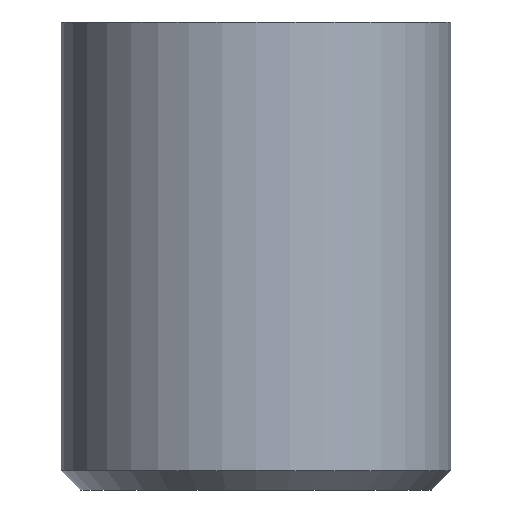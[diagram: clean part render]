
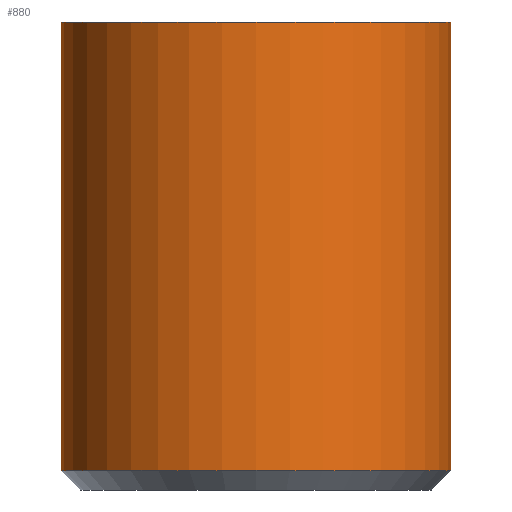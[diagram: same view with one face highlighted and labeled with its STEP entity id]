
A CAD part, front view. The second image highlights one B-rep face of the part: STEP entity #880.
In plain terms, the highlighted cylindrical face has radius 5 mm (diameter 10 mm), a partial arc.
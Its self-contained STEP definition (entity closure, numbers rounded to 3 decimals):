
#13 = AXIS2_PLACEMENT_3D ( 'NONE', #1266, #281, #1412 ) ;
#32 = EDGE_CURVE ( 'NONE', #1780, #1040, #567, .T. ) ;
#74 = AXIS2_PLACEMENT_3D ( 'NONE', #2021, #1132, #1115 ) ;
#84 = EDGE_CURVE ( 'NONE', #1040, #1016, #520, .T. ) ;
#220 = DIRECTION ( 'NONE',  ( 0., 0., 1. ) ) ;
#233 = CARTESIAN_POINT ( 'NONE',  ( 5., 0., 0. ) ) ;
#281 = DIRECTION ( 'NONE',  ( 0., 0., 1. ) ) ;
#342 = DIRECTION ( 'NONE',  ( 0., 0., 1. ) ) ;
#368 = CARTESIAN_POINT ( 'NONE',  ( 5., 0., 0. ) ) ;
#369 = EDGE_CURVE ( 'NONE', #1295, #1016, #1122, .T. ) ;
#493 = VECTOR ( 'NONE', #1438, 1000. ) ;
#511 = CARTESIAN_POINT ( 'NONE',  ( 0., 0., 0. ) ) ;
#520 = CIRCLE ( 'NONE', #74, 5. ) ;
#567 = LINE ( 'NONE', #1860, #493 ) ;
#588 = EDGE_LOOP ( 'NONE', ( #636, #1651, #1261, #1117 ) ) ;
#636 = ORIENTED_EDGE ( 'NONE', *, *, #32, .F. ) ;
#880 = ADVANCED_FACE ( 'NONE', ( #1003 ), #907, .T. ) ;
#897 = CARTESIAN_POINT ( 'NONE',  ( 5., 0., -11.5 ) ) ;
#907 = CYLINDRICAL_SURFACE ( 'NONE', #1660, 5. ) ;
#1003 = FACE_OUTER_BOUND ( 'NONE', #588, .T. ) ;
#1016 = VERTEX_POINT ( 'NONE', #233 ) ;
#1040 = VERTEX_POINT ( 'NONE', #1277 ) ;
#1115 = DIRECTION ( 'NONE',  ( 1., 0., 0. ) ) ;
#1117 = ORIENTED_EDGE ( 'NONE', *, *, #84, .F. ) ;
#1122 = LINE ( 'NONE', #368, #1756 ) ;
#1132 = DIRECTION ( 'NONE',  ( 0., 0., 1. ) ) ;
#1261 = ORIENTED_EDGE ( 'NONE', *, *, #369, .T. ) ;
#1266 = CARTESIAN_POINT ( 'NONE',  ( 0., 0., -11.5 ) ) ;
#1277 = CARTESIAN_POINT ( 'NONE',  ( -5., 0., 0. ) ) ;
#1295 = VERTEX_POINT ( 'NONE', #897 ) ;
#1305 = CIRCLE ( 'NONE', #13, 5. ) ;
#1412 = DIRECTION ( 'NONE',  ( 1., 0., 0. ) ) ;
#1422 = CARTESIAN_POINT ( 'NONE',  ( -5., 0., -11.5 ) ) ;
#1438 = DIRECTION ( 'NONE',  ( 0., 0., 1. ) ) ;
#1496 = DIRECTION ( 'NONE',  ( 1., 0., 0. ) ) ;
#1525 = EDGE_CURVE ( 'NONE', #1780, #1295, #1305, .T. ) ;
#1651 = ORIENTED_EDGE ( 'NONE', *, *, #1525, .T. ) ;
#1660 = AXIS2_PLACEMENT_3D ( 'NONE', #511, #220, #1496 ) ;
#1756 = VECTOR ( 'NONE', #342, 1000. ) ;
#1780 = VERTEX_POINT ( 'NONE', #1422 ) ;
#1860 = CARTESIAN_POINT ( 'NONE',  ( -5., 0., 0. ) ) ;
#2021 = CARTESIAN_POINT ( 'NONE',  ( 0., 0., 0. ) ) ;
